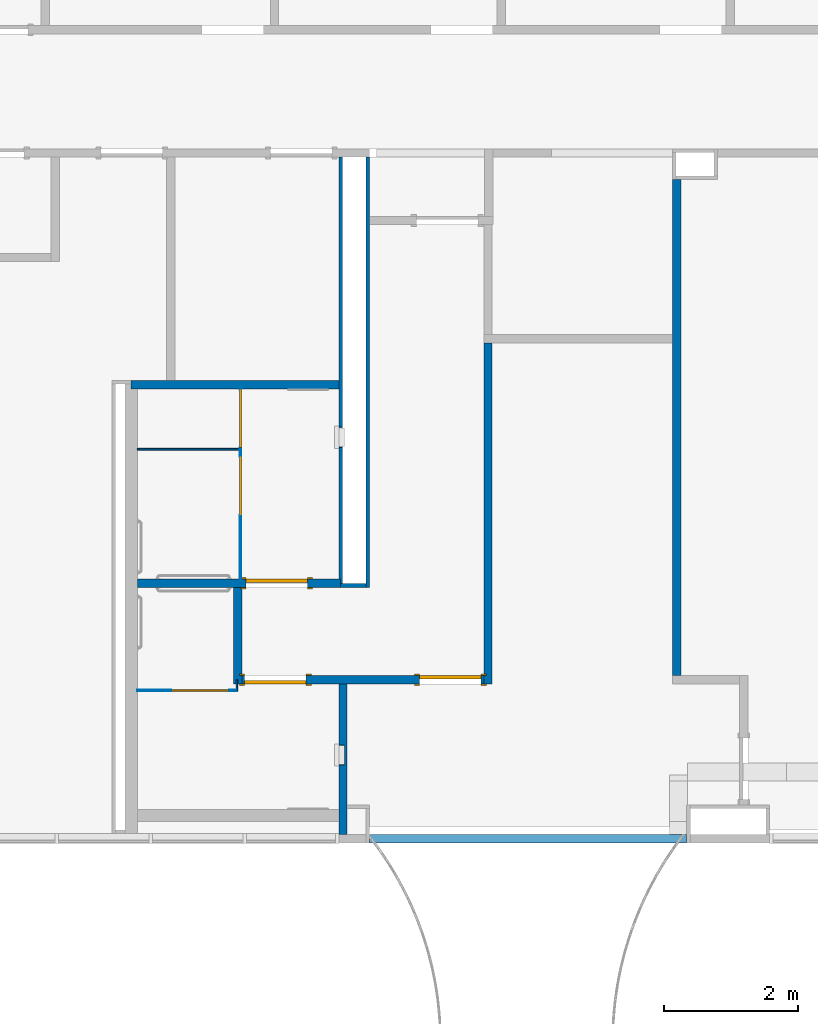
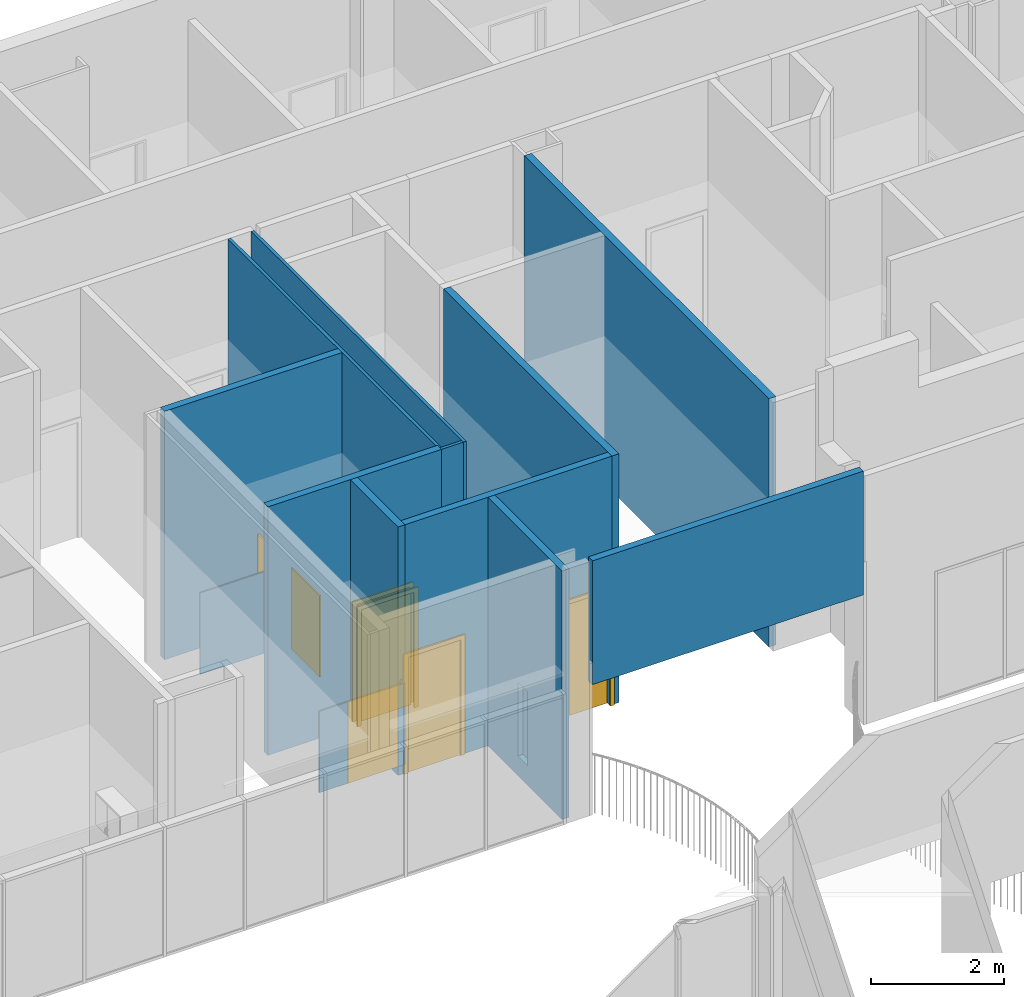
# One storey, part 14 of 47: 15 walls, 6 doors, 8 openings.
"""IFC2X3 building model written with IfcOpenShell, lengths in metres."""

from ifc_helpers import new_model, entity, si_unit, converted_unit, frame, frame_2d, origin, origin_2d_with_axis, place, context, project, spatial, polyline, rectangle, outline, extrude, source, transform, mapped, material, layer, layer_set, layer_usage, type_object, type_shapes, element, fill, save


model = new_model("IFC2X3")

# Units and contexts
model_context = context("Model", 3, precision=1e-09, world=origin())
plan_context = context("Plan", 3, precision=1e-09, world=origin())
ifc_project = project(units=[si_unit("LENGTHUNIT", "METRE"), si_unit("AREAUNIT", "SQUARE_METRE"), si_unit("VOLUMEUNIT", "CUBIC_METRE"), converted_unit("PLANEANGLEUNIT", "DEGREE", entity("IfcRatioMeasure", 0.01745329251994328), si_unit("PLANEANGLEUNIT", "RADIAN"), dimensions=[0, 0, 0, 0, 0, 0, 0]), si_unit("TIMEUNIT", "SECOND")], contexts=[model_context, plan_context])

# Site, building, storey
site_placement = place(None, origin())
site = spatial("IfcSite", under=ifc_project, at=site_placement, Name="Default", CompositionType="ELEMENT")
building_placement = place(site_placement, origin())
building = spatial("IfcBuilding", under=site, at=building_placement, CompositionType="ELEMENT")
storey_placement = place(building_placement, frame((0.0, 0.0, 4.570000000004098)))
storey = spatial("IfcBuildingStorey", under=building, at=storey_placement, Name="Second Floor", CompositionType="ELEMENT", Elevation=4.570000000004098)

# Walls
ifc_material_1 = material(Name="Metal - Stud Layer")
ifc_layer_1 = layer(ifc_material_1, 0.038)
ifc_material_2 = material(Name="Plasterboard")
ifc_layer_2 = layer(ifc_material_2, 0.016)
ifc_layer_set_1 = layer_set([ifc_layer_1, ifc_layer_2], Name="Basic Wall:Interior - Furring (38 mm Stud)")
ifc_layer_usage_1 = layer_usage(ifc_layer_set_1, "AXIS2", "POSITIVE", -0.027)
wall_1_placement = place(storey_placement, frame((-19.85700000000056, 44.92043871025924, 0.0), z_axis=(0.0, 0.0, 1.0), x_axis=(0.0, -1.0, 0.0)))
element("IfcWallStandardCase", 1, at=wall_1_placement, inside=storey, material=ifc_layer_usage_1, Name="Basic Wall:Interior - Furring (38 mm Stud)", ObjectType="Basic Wall:Interior - Furring (38 mm Stud)", context=model_context, shape_type="SweptSolid", body=[
    extrude(rectangle(XDim=6.406085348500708, YDim=0.05399999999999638, at=frame_2d((3.203042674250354, 0.0), x_axis=(-1.0, 0.0))), origin(), (0.0, 0.0, 1.0), 4.577999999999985),
])
ifc_layer_3 = layer(ifc_material_2, 0.016)
ifc_layer_4 = layer(ifc_material_1, 0.092)
ifc_layer_5 = layer(ifc_material_2, 0.016)
ifc_layer_set_2 = layer_set([ifc_layer_3, ifc_layer_4, ifc_layer_5], Name="Basic Wall:Interior - Partition (92mm Stud)")
ifc_layer_usage_2 = layer_usage(ifc_layer_set_2, "AXIS2", "NEGATIVE", 0.062)
wall_2_placement = place(storey_placement, frame((-15.2580000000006, 37.19843871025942, 0.0), z_axis=(0.0, 0.0, 1.0), x_axis=(0.0, 1.0, 0.0)))
element("IfcWallStandardCase", 2, at=wall_2_placement, inside=storey, material=ifc_layer_usage_2, Name="Basic Wall:Interior - Partition (92mm Stud)", ObjectType="Basic Wall:Interior - Partition (92mm Stud)", context=model_context, shape_type="SweptSolid", body=[
    extrude(rectangle(XDim=7.385999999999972, YDim=0.1240000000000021, at=frame_2d((3.692999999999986, 0.0), x_axis=(-1.0, 0.0))), origin(), (0.0, 0.0, 1.0), 4.577999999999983),
])
ifc_layer_usage_3 = layer_usage(ifc_layer_set_2, "AXIS2", "NEGATIVE", 0.062)
wall_3_placement = place(storey_placement, frame((-18.06700000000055, 42.15600069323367, 0.0), z_axis=(0.0, 0.0, 1.0), x_axis=(0.0, -1.0, 0.0)))
element("IfcWallStandardCase", 3, at=wall_3_placement, inside=storey, material=ifc_layer_usage_3, Name="Basic Wall:Interior - Partition (92mm Stud)", ObjectType="Basic Wall:Interior - Partition (92mm Stud)", context=model_context, shape_type="SweptSolid", body=[
    extrude(rectangle(XDim=5.08156198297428, YDim=0.1240000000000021, at=frame_2d((2.54078099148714, 0.0), x_axis=(-1.0, 0.0))), origin(), (0.0, 0.0, 1.0), 4.577999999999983),
])

# Wall, openings, doors
ifc_layer_usage_4 = layer_usage(ifc_layer_set_2, "AXIS2", "NEGATIVE", 0.062)
wall_4_placement = place(storey_placement, frame((-18.12900000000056, 37.13643871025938, 0.0), z_axis=(0.0, 0.0, 1.0), x_axis=(-1.0, 0.0, 0.0)))
wall_4 = element("IfcWallStandardCase", 4, at=wall_4_placement, inside=storey, material=ifc_layer_usage_4, Name="Basic Wall:Interior - Partition (92mm Stud)", ObjectType="Basic Wall:Interior - Partition (92mm Stud)", context=model_context, shape_type="SweptSolid", body=[
    extrude(rectangle(XDim=3.601000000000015, YDim=0.1240000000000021, at=frame_2d((1.800500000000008, 0.0), x_axis=(1.0, 0.0))), origin(), (0.0, 0.0, 1.0), 4.577999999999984),
])
opening_1_placement = place(wall_4_placement, frame((2.646000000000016, -0.06200000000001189, 0.0)))
opening_1 = element("IfcOpeningElement", 5, at=opening_1_placement, cuts=wall_4, Name="M_Single-Flush:0915 x 2134mm:0915 x 2134mm:1", ObjectType="Opening", context=model_context, shape_type="SweptSolid", body=[
    extrude(rectangle(XDim=0.9149999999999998, YDim=2.134, at=frame_2d((1.067, 0.4575), x_axis=(0.0, 1.0))), frame((0.0, 0.0, 0.0), z_axis=(0.0, 1.0, 0.0), x_axis=(0.0, 0.0, 1.0)), (0.0, 0.0, 1.0), 0.124),
])
opening_2_placement = place(wall_4_placement, frame((0.9550000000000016, 0.06199999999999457, 0.0)))
opening_2 = element("IfcOpeningElement", 6, at=opening_2_placement, cuts=wall_4, Name="M_Single-Flush:0915 x 2134mm:0915 x 2134mm:1", ObjectType="Opening", context=model_context, shape_type="SweptSolid", body=[
    extrude(rectangle(XDim=0.9149999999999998, YDim=2.134, at=frame_2d((1.067, 0.4575), x_axis=(0.0, 1.0))), frame((0.0, 0.0, 0.0), z_axis=(0.0, -1.0, 0.0), x_axis=(0.0, 0.0, 1.0)), (0.0, 0.0, 1.0), 0.124),
])
door_style_1 = type_object("IfcDoorStyle", Name="0915 x 2134mm", ConstructionType="NOTDEFINED", OperationType="SINGLE_SWING_RIGHT", ParameterTakesPrecedence=False, Sizeable=False)
shared_shape_1 = source(origin(), model_context, "Body", "SweptSolid", [
    extrude(outline(polyline([(-0.5335, -1.123999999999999), (0.5334999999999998, -1.123999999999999), (0.5334999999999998, 1.086), (0.4574999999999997, 1.086), (0.4574999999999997, -1.048000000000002), (-0.4574999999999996, -1.048000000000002), (-0.4574999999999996, 1.086), (-0.5335, 1.086), (-0.5335, -1.123999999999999)])), frame((0.4575000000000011, 0.1239999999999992, 1.086), z_axis=(0.0, 1.0, 0.0), x_axis=(1.0, 0.0, 0.0)), (0.0, 0.0, 1.0), 0.02499999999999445),
    extrude(outline(polyline([(-1.123999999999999, -0.5334999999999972), (1.085999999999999, -0.5334999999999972), (1.085999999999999, -0.4575000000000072), (-1.048, -0.4575000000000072), (-1.048, 0.4575000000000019), (1.085999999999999, 0.4575000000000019), (1.085999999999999, 0.5335000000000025), (-1.123999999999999, 0.5335000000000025), (-1.123999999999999, -0.5334999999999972)])), frame((0.4575000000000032, -0.02500000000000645, 1.085999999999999), z_axis=(0.0, 1.0, 0.0), x_axis=(0.0, 0.0, -1.0)), (0.0, 0.0, 1.0), 0.02500000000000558),
    extrude(rectangle(XDim=0.051, YDim=0.9149999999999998, at=origin_2d_with_axis()), frame((0.4575000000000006, 0.09849999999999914, 0.0), z_axis=(0.0, 0.0, 1.0), x_axis=(0.0, 1.0, 0.0)), (0.0, 0.0, 1.0), 2.133999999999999),
])
type_shapes(door_style_1, [shared_shape_1])
door_1_placement = place(opening_1_placement, origin())
door_1 = element("IfcDoor", 7, at=door_1_placement, inside=storey, type_object=door_style_1, Name="M_Single-Flush:0915 x 2134mm:0915 x 2134mm", ObjectType="0915 x 2134mm", OverallHeight=2.134, OverallWidth=0.9149999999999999, context=model_context, shape_type="MappedRepresentation", body=[
    mapped(shared_shape_1, transform((0.0, 0.0, 0.0), scale=1.0)),
])
fill(opening_1, door_1)
door_2_placement = place(opening_2_placement, frame((0.0, 0.0, 0.0), z_axis=(0.0, 0.0, 1.0), x_axis=(-1.0, 0.0, 0.0)))
door_2 = element("IfcDoor", 8, at=door_2_placement, inside=storey, type_object=door_style_1, Name="M_Single-Flush:0915 x 2134mm:0915 x 2134mm", ObjectType="0915 x 2134mm", OverallHeight=2.134, OverallWidth=0.9149999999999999, context=model_context, shape_type="MappedRepresentation", body=[
    mapped(shared_shape_1, transform((0.0, 0.0, 0.0), scale=1.0)),
])
fill(opening_2, door_2)

# Wall
ifc_layer_usage_5 = layer_usage(ifc_layer_set_1, "AXIS2", "POSITIVE", -0.027)
wall_5_placement = place(storey_placement, frame((-19.88400000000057, 38.54135336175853, 0.0), z_axis=(0.0, 0.0, 1.0), x_axis=(-1.0, 0.0, 0.0)))
element("IfcWallStandardCase", 9, at=wall_5_placement, inside=storey, material=ifc_layer_usage_5, Name="Basic Wall:Interior - Furring (38 mm Stud)", ObjectType="Basic Wall:Interior - Furring (38 mm Stud)", context=model_context, shape_type="SweptSolid", body=[
    extrude(rectangle(XDim=0.3790000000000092, YDim=0.05399999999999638, at=frame_2d((0.1895000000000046, 0.0), x_axis=(-1.0, 0.0))), origin(), (0.0, 0.0, 1.0), 4.577999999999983),
])

# Wall, opening
ifc_layer_usage_6 = layer_usage(ifc_layer_set_2, "AXIS2", "NEGATIVE", 0.062)
wall_6_placement = place(storey_placement, frame((-20.22800000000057, 34.83380159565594, 0.0), z_axis=(0.0, 0.0, 1.0), x_axis=(0.0, 1.0, 0.0)))
wall_6 = element("IfcWallStandardCase", 10, at=wall_6_placement, inside=storey, material=ifc_layer_usage_6, Name="Basic Wall:Interior - Partition (92mm Stud)", ObjectType="Basic Wall:Interior - Partition (92mm Stud)", context=model_context, shape_type="SweptSolid", body=[
    extrude(rectangle(XDim=2.240637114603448, YDim=0.1239999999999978, at=frame_2d((1.120318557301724, 0.0), x_axis=(-1.0, 0.0))), origin(), (0.0, 0.0, 1.0), 4.577999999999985),
])
opening_3_placement = place(wall_6_placement, origin())
element("IfcOpeningElement", 11, at=opening_3_placement, cuts=wall_6, ObjectType="Opening", context=model_context, shape_type="SweptSolid", body=[
    extrude(rectangle(XDim=1.362075, YDim=0.2984500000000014, at=frame_2d((0.0, 0.0), x_axis=(0.0, 1.0))), frame((1.185737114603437, -0.0269000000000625, 1.041399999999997), z_axis=(0.0, 1.0, 0.0), x_axis=(1.0, 0.0, 0.0)), (0.0, 0.0, 1.0), 0.1524000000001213),
])

# Wall
ifc_layer_usage_7 = layer_usage(ifc_layer_set_2, "AXIS2", "NEGATIVE", 0.062)
wall_7_placement = place(storey_placement, frame((-21.79200000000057, 38.51435336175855, 0.0), z_axis=(0.0, 0.0, 1.0), x_axis=(0.0, -1.0, 0.0)))
element("IfcWallStandardCase", 12, at=wall_7_placement, inside=storey, material=ifc_layer_usage_7, Name="Basic Wall:Interior - Partition (92mm Stud)", ObjectType="Basic Wall:Interior - Partition (92mm Stud)", context=model_context, shape_type="SweptSolid", body=[
    extrude(rectangle(XDim=1.439914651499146, YDim=0.1239999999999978, at=frame_2d((0.7199573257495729, 0.0), x_axis=(-1.0, 0.0))), origin(), (0.0, 0.0, 1.0), 4.577999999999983),
])

# Wall, opening
ifc_layer_usage_8 = layer_usage(ifc_layer_set_1, "AXIS2", "POSITIVE", -0.027)
wall_8_placement = place(storey_placement, frame((-20.26300000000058, 38.56835336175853, 0.0), z_axis=(0.0, 0.0, 1.0), x_axis=(0.0, 1.0, 0.0)))
wall_8 = element("IfcWallStandardCase", 13, at=wall_8_placement, inside=storey, material=ifc_layer_usage_8, Name="Basic Wall:Interior - Furring (38 mm Stud)", ObjectType="Basic Wall:Interior - Furring (38 mm Stud)", context=model_context, shape_type="SweptSolid", body=[
    extrude(outline(polyline([(6.352085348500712, -0.02700000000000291), (6.352085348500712, 0.0269999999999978), (3.026085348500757, 0.0269999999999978), (2.902085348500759, 0.02699999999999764), (0.07000000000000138, 0.02699999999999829), (0.07000000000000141, 0.0), (0.0, 0.0), (0.0, -0.02700000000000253), (6.352085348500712, -0.02700000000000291)])), origin(), (0.0, 0.0, 1.0), 4.577999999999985),
])
opening_4_placement = place(wall_8_placement, origin())
element("IfcOpeningElement", 14, at=opening_4_placement, cuts=wall_8, ObjectType="Opening", context=model_context, shape_type="SweptSolid", body=[
    extrude(rectangle(XDim=1.362075, YDim=0.2984499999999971, at=frame_2d((0.0, 0.0), x_axis=(0.0, 1.0))), frame((2.181185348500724, -0.06190000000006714, 1.041399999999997), z_axis=(0.0, 1.0, 0.0), x_axis=(1.0, 0.0, 0.0)), (0.0, 0.0, 1.0), 0.1524000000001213),
])

# Walls
ifc_layer_usage_9 = layer_usage(ifc_layer_set_2, "AXIS2", "NEGATIVE", 0.062)
wall_9_placement = place(storey_placement, frame((-15.08297500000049, 34.77180159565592, 2.399999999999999), z_axis=(0.0, 0.0, 1.0), x_axis=(-1.0, 0.0, 0.0)))
element("IfcWallStandardCase", 15, at=wall_9_placement, inside=storey, material=ifc_layer_usage_9, Name="Basic Wall:Interior - Partition (92mm Stud)", ObjectType="Basic Wall:Interior - Partition (92mm Stud)", context=model_context, shape_type="SweptSolid", body=[
    extrude(rectangle(XDim=4.720025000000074, YDim=0.1240000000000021, at=frame_2d((2.387012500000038, 0.0), x_axis=(-1.0, 0.0))), origin(), (0.0, 0.0, 1.0), 2.279999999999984),
])
ifc_layer_usage_10 = layer_usage(ifc_layer_set_2, "AXIS2", "NEGATIVE", 0.062)
wall_10_placement = place(storey_placement, frame((-23.3820000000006, 41.53243871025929, 0.0)))
element("IfcWallStandardCase", 16, at=wall_10_placement, inside=storey, material=ifc_layer_usage_10, Name="Basic Wall:Interior - Partition (92mm Stud)", ObjectType="Basic Wall:Interior - Partition (92mm Stud)", context=model_context, shape_type="SweptSolid", body=[
    extrude(rectangle(XDim=3.092000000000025, YDim=0.1240000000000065, at=frame_2d((1.546000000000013, 0.0), x_axis=(-1.0, 0.0))), origin(), (0.0, 0.0, 1.0), 4.577999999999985),
])

# Wall, opening, door
ifc_layer_usage_11 = layer_usage(ifc_layer_set_2, "AXIS2", "NEGATIVE", 0.062)
wall_11_placement = place(storey_placement, frame((-20.26300000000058, 38.57635336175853, 0.0), z_axis=(0.0, 0.0, 1.0), x_axis=(-1.0, 0.0, 0.0)))
wall_11 = element("IfcWallStandardCase", 17, at=wall_11_placement, inside=storey, material=ifc_layer_usage_11, Name="Basic Wall:Interior - Partition (92mm Stud)", ObjectType="Basic Wall:Interior - Partition (92mm Stud)", context=model_context, shape_type="SweptSolid", body=[
    extrude(rectangle(XDim=3.027000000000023, YDim=0.1239999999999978, at=frame_2d((1.513500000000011, 0.0), x_axis=(-1.0, 0.0))), origin(), (0.0, 0.0, 1.0), 4.577999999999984),
])
opening_5_placement = place(wall_11_placement, frame((1.406999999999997, 0.06199999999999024, 0.0)))
opening_5 = element("IfcOpeningElement", 18, at=opening_5_placement, cuts=wall_11, Name=":1", ObjectType="Opening", context=model_context, shape_type="SweptSolid", body=[
    extrude(rectangle(XDim=0.9149999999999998, YDim=2.134, at=frame_2d((1.067, 0.4575000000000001), x_axis=(0.0, -1.0))), frame((0.0, 0.0, 0.0), z_axis=(0.0, -1.0, 0.0), x_axis=(0.0, 0.0, 1.0)), (0.0, 0.0, 1.0), 0.124),
])
door_style_2 = type_object("IfcDoorStyle", Name="0915 x 2134mm", ConstructionType="NOTDEFINED", OperationType="SINGLE_SWING_LEFT", ParameterTakesPrecedence=False, Sizeable=False)
shared_shape_2 = source(origin(), model_context, "Body", "SweptSolid", [
    extrude(outline(polyline([(-0.5335, -1.123999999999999), (0.5334999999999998, -1.123999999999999), (0.5334999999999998, 1.086), (0.4574999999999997, 1.086), (0.4574999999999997, -1.048000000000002), (-0.4574999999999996, -1.048000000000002), (-0.4574999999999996, 1.086), (-0.5335, 1.086), (-0.5335, -1.123999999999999)])), frame((0.4575000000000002, 0.1489999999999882, 1.086), z_axis=(0.0, -1.0, 0.0), x_axis=(-1.0, 0.0, 0.0)), (0.0, 0.0, 1.0), 0.02499999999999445),
    extrude(outline(polyline([(-1.123999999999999, -0.5334999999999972), (1.085999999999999, -0.5334999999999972), (1.085999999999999, -0.4575000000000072), (-1.048, -0.4575000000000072), (-1.048, 0.4575000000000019), (1.085999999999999, 0.4575000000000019), (1.085999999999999, 0.5335000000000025), (-1.123999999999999, 0.5335000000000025), (-1.123999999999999, -0.5334999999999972)])), frame((0.4574999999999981, 0.0, 1.085999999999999), z_axis=(0.0, -1.0, 0.0), x_axis=(0.0, 0.0, -1.0)), (0.0, 0.0, 1.0), 0.02500000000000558),
    extrude(rectangle(XDim=0.9149999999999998, YDim=0.051, at=origin_2d_with_axis()), frame((0.4575000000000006, 0.09849999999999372, 0.0)), (0.0, 0.0, 1.0), 2.133999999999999),
])
type_shapes(door_style_2, [shared_shape_2])
door_3_placement = place(opening_5_placement, frame((0.0, 0.0, 0.0), z_axis=(0.0, 0.0, 1.0), x_axis=(-1.0, 0.0, 0.0)))
door_3 = element("IfcDoor", 19, at=door_3_placement, inside=storey, type_object=door_style_2, Name="M_Single-Flush:0915 x 2134mm:0915 x 2134mm", ObjectType="0915 x 2134mm", OverallHeight=2.134, OverallWidth=0.9149999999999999, context=model_context, shape_type="MappedRepresentation", body=[
    mapped(shared_shape_2, transform((0.0, 0.0, 0.0), scale=1.0)),
])
fill(opening_5, door_3)

# Wall
ifc_material_3 = material(Name="Laminate - Ivory, Matte")
ifc_layer_6 = layer(ifc_material_3, 0.025)
ifc_layer_set_3 = layer_set([ifc_layer_6], Name="Basic Wall:Interior - Toilet Partition (25mm)")
ifc_layer_usage_12 = layer_usage(ifc_layer_set_3, "AXIS2", "NEGATIVE", 0.0125)
wall_12_placement = place(storey_placement, frame((-21.80750115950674, 37.13643871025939, 0.25), z_axis=(0.0, 0.0, 1.0), x_axis=(0.0, -1.0, 0.0)))
element("IfcWallStandardCase", 20, at=wall_12_placement, inside=storey, material=ifc_layer_usage_12, Name="Basic Wall:Interior - Toilet Partition (25mm)", ObjectType="Basic Wall:Interior - Toilet Partition (25mm)", context=model_context, shape_type="SweptSolid", body=[
    extrude(rectangle(XDim=0.1720854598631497, YDim=0.02500000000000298, at=frame_2d((0.08604272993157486, 0.0), x_axis=(-1.0, 0.0))), origin(), (0.0, 0.0, 1.0), 1.5),
])

# Wall, opening, door
ifc_layer_usage_13 = layer_usage(ifc_layer_set_3, "AXIS2", "NEGATIVE", 0.0125)
wall_13_placement = place(storey_placement, frame((-21.82000115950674, 36.97685325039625, 0.25), z_axis=(0.0, 0.0, 1.0), x_axis=(-1.0, 0.0, 0.0)))
wall_13 = element("IfcWallStandardCase", 21, at=wall_13_placement, inside=storey, material=ifc_layer_usage_13, Name="Basic Wall:Interior - Toilet Partition (25mm)", ObjectType="Basic Wall:Interior - Toilet Partition (25mm)", context=model_context, shape_type="SweptSolid", body=[
    extrude(rectangle(XDim=1.469998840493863, YDim=0.02500000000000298, at=frame_2d((0.7349994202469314, 0.0), x_axis=(-1.0, 0.0))), origin(), (0.0, 0.0, 1.0), 1.5),
])
opening_6_placement = place(wall_13_placement, frame((0.09999999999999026, -0.01249999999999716, 0.0)))
opening_6 = element("IfcOpeningElement", 22, at=opening_6_placement, cuts=wall_13, Name="M_Toilet Partition:0865 x 1500mm:0865 x 1500mm:1", ObjectType="Opening", context=model_context, shape_type="SweptSolid", body=[
    extrude(rectangle(XDim=0.8649999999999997, YDim=1.5, at=frame_2d((0.7499999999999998, 0.4325000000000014), x_axis=(0.0, 1.0))), frame((0.0, 0.0, 0.0), z_axis=(0.0, 1.0, 0.0), x_axis=(0.0, 0.0, 1.0)), (0.0, 0.0, 1.0), 0.025),
])
door_style_3 = type_object("IfcDoorStyle", Name="0865 x 1500mm", ConstructionType="NOTDEFINED", OperationType="SINGLE_SWING_RIGHT", ParameterTakesPrecedence=False, Sizeable=False)
shared_shape_3 = source(origin(), model_context, "Body", "SweptSolid", [
    extrude(rectangle(XDim=0.025, YDim=0.8649999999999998, at=origin_2d_with_axis()), frame((0.4325000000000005, 0.0124999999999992, 0.0), z_axis=(0.0, 0.0, 1.0), x_axis=(0.0, 1.0, 0.0)), (0.0, 0.0, 1.0), 1.499999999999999),
])
type_shapes(door_style_3, [shared_shape_3])
door_4_placement = place(opening_6_placement, origin())
door_4 = element("IfcDoor", 23, at=door_4_placement, inside=storey, type_object=door_style_3, Name="M_Toilet Partition:0865 x 1500mm:0865 x 1500mm", ObjectType="0865 x 1500mm", OverallHeight=1.5, OverallWidth=0.8650000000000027, context=model_context, shape_type="MappedRepresentation", body=[
    mapped(shared_shape_3, transform((0.0, 0.0, 0.0), scale=1.0)),
])
fill(opening_6, door_4)

# Wall, openings, doors
ifc_layer_usage_14 = layer_usage(ifc_layer_set_3, "AXIS2", "NEGATIVE", 0.0125)
wall_14_placement = place(storey_placement, frame((-21.75250066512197, 38.63835336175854, 0.25), z_axis=(0.0, 0.0, 1.0), x_axis=(0.0, 1.0, 0.0)))
wall_14 = element("IfcWallStandardCase", 24, at=wall_14_placement, inside=storey, material=ifc_layer_usage_14, Name="Basic Wall:Interior - Toilet Partition (25mm)", ObjectType="Basic Wall:Interior - Toilet Partition (25mm)", context=model_context, shape_type="SweptSolid", body=[
    extrude(rectangle(XDim=2.832085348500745, YDim=0.02500000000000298, at=frame_2d((1.416042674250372, 0.0), x_axis=(-1.0, 0.0))), origin(), (0.0, 0.0, 1.0), 1.5),
])
opening_7_placement = place(wall_14_placement, frame((1.821085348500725, 0.01249999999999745, 0.0)))
opening_7 = element("IfcOpeningElement", 25, at=opening_7_placement, cuts=wall_14, Name="M_Toilet Partition:0865 x 1500mm:0865 x 1500mm:1", ObjectType="Opening", context=model_context, shape_type="SweptSolid", body=[
    extrude(rectangle(XDim=0.8649999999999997, YDim=1.5, at=frame_2d((0.7499999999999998, 0.4325000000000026), x_axis=(0.0, -1.0))), frame((0.0, 0.0, 0.0), z_axis=(0.0, -1.0, 0.0), x_axis=(0.0, 0.0, 1.0)), (0.0, 0.0, 1.0), 0.025),
])
opening_8_placement = place(wall_14_placement, frame((1.956585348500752, -0.01250000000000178, 0.0)))
opening_8 = element("IfcOpeningElement", 26, at=opening_8_placement, cuts=wall_14, Name="M_Toilet Partition:0865 x 1500mm:0865 x 1500mm:1", ObjectType="Opening", context=model_context, shape_type="SweptSolid", body=[
    extrude(rectangle(XDim=0.8649999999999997, YDim=1.5, at=frame_2d((0.7499999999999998, 0.4325000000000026), x_axis=(0.0, -1.0))), frame((0.0, 0.0, 0.0), z_axis=(0.0, 1.0, 0.0), x_axis=(0.0, 0.0, 1.0)), (0.0, 0.0, 1.0), 0.025),
])
door_style_4 = type_object("IfcDoorStyle", Name="0865 x 1500mm", ConstructionType="NOTDEFINED", OperationType="SINGLE_SWING_LEFT", ParameterTakesPrecedence=False, Sizeable=False)
shared_shape_4 = source(origin(), model_context, "Body", "SweptSolid", [
    extrude(rectangle(XDim=0.8649999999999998, YDim=0.025, at=origin_2d_with_axis()), frame((0.4325000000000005, 0.01249999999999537, 0.0)), (0.0, 0.0, 1.0), 1.499999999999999),
])
type_shapes(door_style_4, [shared_shape_4])
door_5_placement = place(opening_7_placement, frame((0.0, 0.0, 0.0), z_axis=(0.0, 0.0, 1.0), x_axis=(-1.0, 0.0, 0.0)))
door_5 = element("IfcDoor", 27, at=door_5_placement, inside=storey, type_object=door_style_4, Name="M_Toilet Partition:0865 x 1500mm:0865 x 1500mm", ObjectType="0865 x 1500mm", OverallHeight=1.5, OverallWidth=0.8650000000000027, context=model_context, shape_type="MappedRepresentation", body=[
    mapped(shared_shape_4, transform((0.0, 0.0, 0.0), scale=1.0)),
])
fill(opening_7, door_5)
door_6_placement = place(opening_8_placement, origin())
door_6 = element("IfcDoor", 28, at=door_6_placement, inside=storey, type_object=door_style_4, Name="M_Toilet Partition:0865 x 1500mm:0865 x 1500mm", ObjectType="0865 x 1500mm", OverallHeight=1.5, OverallWidth=0.8650000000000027, context=model_context, shape_type="MappedRepresentation", body=[
    mapped(shared_shape_4, transform((0.0, 0.0, 0.0), scale=1.0)),
])
fill(opening_8, door_6)

# Wall
ifc_layer_usage_15 = layer_usage(ifc_layer_set_3, "AXIS2", "NEGATIVE", 0.0125)
wall_15_placement = place(storey_placement, frame((-23.2900000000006, 40.57193871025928, 0.25)))
element("IfcWallStandardCase", 29, at=wall_15_placement, inside=storey, material=ifc_layer_usage_15, Name="Basic Wall:Interior - Toilet Partition (25mm)", ObjectType="Basic Wall:Interior - Toilet Partition (25mm)", context=model_context, shape_type="SweptSolid", body=[
    extrude(rectangle(XDim=1.524999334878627, YDim=0.02499999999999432, at=frame_2d((0.7624996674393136, 0.0), x_axis=(-1.0, 0.0))), origin(), (0.0, 0.0, 1.0), 1.5),
])

save(model, "model.ifc")
